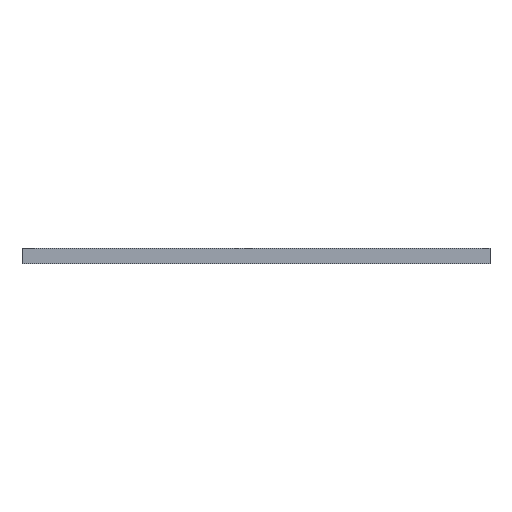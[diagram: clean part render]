
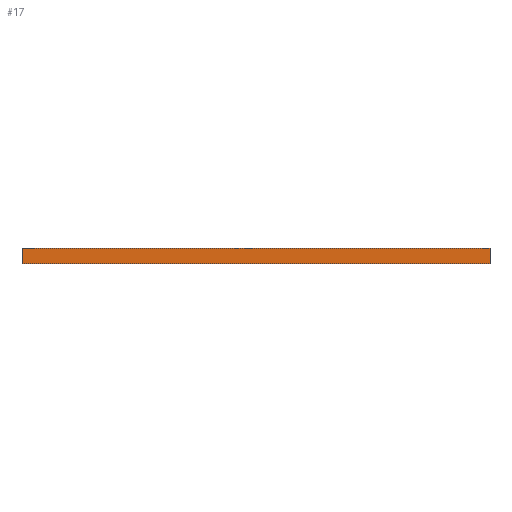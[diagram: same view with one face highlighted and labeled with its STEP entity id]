
A CAD part, front view. The second image highlights one B-rep face of the part: STEP entity #17.
In plain terms, the highlighted free-form (B-spline) face has degree [1, 1] with [2, 2] control points.
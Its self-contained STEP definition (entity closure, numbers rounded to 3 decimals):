
#17 = ADVANCED_FACE('',(#18),#31,.T.);
#18 = FACE_BOUND('',#19,.T.);
#19 = EDGE_LOOP('',(#20,#52,#77,#102));
#20 = ORIENTED_EDGE('',*,*,#21,.T.);
#21 = EDGE_CURVE('',#22,#24,#26,.T.);
#22 = VERTEX_POINT('',#23);
#23 = CARTESIAN_POINT('',(27.5,-27.,0.));
#24 = VERTEX_POINT('',#25);
#25 = CARTESIAN_POINT('',(27.5,-27.,0.9));
#26 = SURFACE_CURVE('',#27,(#30,#41),.PCURVE_S1.);
#27 = B_SPLINE_CURVE_WITH_KNOTS('',1,(#28,#29),.UNSPECIFIED.,.F.,.F.,(2,
    2),(0.,0.729),.PIECEWISE_BEZIER_KNOTS.);
#28 = CARTESIAN_POINT('',(27.5,-27.,0.));
#29 = CARTESIAN_POINT('',(27.5,-27.,0.9));
#30 = PCURVE('',#31,#36);
#31 = B_SPLINE_SURFACE_WITH_KNOTS('',1,1,(
    (#32,#33)
    ,(#34,#35
    )),.UNSPECIFIED.,.F.,.F.,.F.,(2,2),(2,2),(0.,27.5),(-0.729,0.),
  .PIECEWISE_BEZIER_KNOTS.);
#32 = CARTESIAN_POINT('',(27.5,-27.,0.9));
#33 = CARTESIAN_POINT('',(27.5,-27.,0.));
#34 = CARTESIAN_POINT('',(0.,-27.,0.9));
#35 = CARTESIAN_POINT('',(0.,-27.,0.));
#36 = DEFINITIONAL_REPRESENTATION('',(#37),#40);
#37 = B_SPLINE_CURVE_WITH_KNOTS('',1,(#38,#39),.UNSPECIFIED.,.F.,.F.,(2,
    2),(0.,0.729),.PIECEWISE_BEZIER_KNOTS.);
#38 = CARTESIAN_POINT('',(0.,0.));
#39 = CARTESIAN_POINT('',(0.,-0.729));
#40 = ( GEOMETRIC_REPRESENTATION_CONTEXT(2) 
PARAMETRIC_REPRESENTATION_CONTEXT() REPRESENTATION_CONTEXT('2D SPACE',''
  ) );
#41 = PCURVE('',#42,#47);
#42 = B_SPLINE_SURFACE_WITH_KNOTS('',1,1,(
    (#43,#44)
    ,(#45,#46
    )),.UNSPECIFIED.,.F.,.F.,.F.,(2,2),(2,2),(0.,27.5),(-0.729,0.),
  .PIECEWISE_BEZIER_KNOTS.);
#43 = CARTESIAN_POINT('',(27.5,0.5,0.9));
#44 = CARTESIAN_POINT('',(27.5,0.5,0.));
#45 = CARTESIAN_POINT('',(27.5,-27.,0.9));
#46 = CARTESIAN_POINT('',(27.5,-27.,0.));
#47 = DEFINITIONAL_REPRESENTATION('',(#48),#51);
#48 = B_SPLINE_CURVE_WITH_KNOTS('',1,(#49,#50),.UNSPECIFIED.,.F.,.F.,(2,
    2),(0.,0.729),.PIECEWISE_BEZIER_KNOTS.);
#49 = CARTESIAN_POINT('',(27.5,0.));
#50 = CARTESIAN_POINT('',(27.5,-0.729));
#51 = ( GEOMETRIC_REPRESENTATION_CONTEXT(2) 
PARAMETRIC_REPRESENTATION_CONTEXT() REPRESENTATION_CONTEXT('2D SPACE',''
  ) );
#52 = ORIENTED_EDGE('',*,*,#53,.T.);
#53 = EDGE_CURVE('',#24,#54,#56,.T.);
#54 = VERTEX_POINT('',#55);
#55 = CARTESIAN_POINT('',(0.,-27.,0.9));
#56 = SURFACE_CURVE('',#57,(#60,#66),.PCURVE_S1.);
#57 = B_SPLINE_CURVE_WITH_KNOTS('',1,(#58,#59),.UNSPECIFIED.,.F.,.F.,(2,
    2),(0.,27.5),.PIECEWISE_BEZIER_KNOTS.);
#58 = CARTESIAN_POINT('',(27.5,-27.,0.9));
#59 = CARTESIAN_POINT('',(0.,-27.,0.9));
#60 = PCURVE('',#31,#61);
#61 = DEFINITIONAL_REPRESENTATION('',(#62),#65);
#62 = B_SPLINE_CURVE_WITH_KNOTS('',1,(#63,#64),.UNSPECIFIED.,.F.,.F.,(2,
    2),(0.,27.5),.PIECEWISE_BEZIER_KNOTS.);
#63 = CARTESIAN_POINT('',(0.,-0.729));
#64 = CARTESIAN_POINT('',(27.5,-0.729));
#65 = ( GEOMETRIC_REPRESENTATION_CONTEXT(2) 
PARAMETRIC_REPRESENTATION_CONTEXT() REPRESENTATION_CONTEXT('2D SPACE',''
  ) );
#66 = PCURVE('',#67,#72);
#67 = B_SPLINE_SURFACE_WITH_KNOTS('',1,1,(
    (#68,#69)
    ,(#70,#71
    )),.UNSPECIFIED.,.F.,.F.,.F.,(2,2),(2,2),(0.,27.5),(-27.,0.5),
  .PIECEWISE_BEZIER_KNOTS.);
#68 = CARTESIAN_POINT('',(0.,-27.,0.9));
#69 = CARTESIAN_POINT('',(0.,0.5,0.9));
#70 = CARTESIAN_POINT('',(27.5,-27.,0.9));
#71 = CARTESIAN_POINT('',(27.5,0.5,0.9));
#72 = DEFINITIONAL_REPRESENTATION('',(#73),#76);
#73 = B_SPLINE_CURVE_WITH_KNOTS('',1,(#74,#75),.UNSPECIFIED.,.F.,.F.,(2,
    2),(0.,27.5),.PIECEWISE_BEZIER_KNOTS.);
#74 = CARTESIAN_POINT('',(27.5,-27.));
#75 = CARTESIAN_POINT('',(0.,-27.));
#76 = ( GEOMETRIC_REPRESENTATION_CONTEXT(2) 
PARAMETRIC_REPRESENTATION_CONTEXT() REPRESENTATION_CONTEXT('2D SPACE',''
  ) );
#77 = ORIENTED_EDGE('',*,*,#78,.F.);
#78 = EDGE_CURVE('',#79,#54,#81,.T.);
#79 = VERTEX_POINT('',#80);
#80 = CARTESIAN_POINT('',(0.,-27.,0.));
#81 = SURFACE_CURVE('',#82,(#85,#91),.PCURVE_S1.);
#82 = B_SPLINE_CURVE_WITH_KNOTS('',1,(#83,#84),.UNSPECIFIED.,.F.,.F.,(2,
    2),(0.,0.729),.PIECEWISE_BEZIER_KNOTS.);
#83 = CARTESIAN_POINT('',(0.,-27.,0.));
#84 = CARTESIAN_POINT('',(0.,-27.,0.9));
#85 = PCURVE('',#31,#86);
#86 = DEFINITIONAL_REPRESENTATION('',(#87),#90);
#87 = B_SPLINE_CURVE_WITH_KNOTS('',1,(#88,#89),.UNSPECIFIED.,.F.,.F.,(2,
    2),(0.,0.729),.PIECEWISE_BEZIER_KNOTS.);
#88 = CARTESIAN_POINT('',(27.5,0.));
#89 = CARTESIAN_POINT('',(27.5,-0.729));
#90 = ( GEOMETRIC_REPRESENTATION_CONTEXT(2) 
PARAMETRIC_REPRESENTATION_CONTEXT() REPRESENTATION_CONTEXT('2D SPACE',''
  ) );
#91 = PCURVE('',#92,#97);
#92 = B_SPLINE_SURFACE_WITH_KNOTS('',1,1,(
    (#93,#94)
    ,(#95,#96
    )),.UNSPECIFIED.,.F.,.F.,.F.,(2,2),(2,2),(0.,27.5),(-0.729,0.),
  .PIECEWISE_BEZIER_KNOTS.);
#93 = CARTESIAN_POINT('',(0.,-27.,0.9));
#94 = CARTESIAN_POINT('',(0.,-27.,0.));
#95 = CARTESIAN_POINT('',(0.,0.5,0.9));
#96 = CARTESIAN_POINT('',(0.,0.5,0.));
#97 = DEFINITIONAL_REPRESENTATION('',(#98),#101);
#98 = B_SPLINE_CURVE_WITH_KNOTS('',1,(#99,#100),.UNSPECIFIED.,.F.,.F.,(2
    ,2),(0.,0.729),.PIECEWISE_BEZIER_KNOTS.);
#99 = CARTESIAN_POINT('',(0.,0.));
#100 = CARTESIAN_POINT('',(0.,-0.729));
#101 = ( GEOMETRIC_REPRESENTATION_CONTEXT(2) 
PARAMETRIC_REPRESENTATION_CONTEXT() REPRESENTATION_CONTEXT('2D SPACE',''
  ) );
#102 = ORIENTED_EDGE('',*,*,#103,.F.);
#103 = EDGE_CURVE('',#22,#79,#104,.T.);
#104 = SURFACE_CURVE('',#105,(#108,#114),.PCURVE_S1.);
#105 = B_SPLINE_CURVE_WITH_KNOTS('',1,(#106,#107),.UNSPECIFIED.,.F.,.F.,
  (2,2),(0.,27.5),.PIECEWISE_BEZIER_KNOTS.);
#106 = CARTESIAN_POINT('',(27.5,-27.,0.));
#107 = CARTESIAN_POINT('',(0.,-27.,0.));
#108 = PCURVE('',#31,#109);
#109 = DEFINITIONAL_REPRESENTATION('',(#110),#113);
#110 = B_SPLINE_CURVE_WITH_KNOTS('',1,(#111,#112),.UNSPECIFIED.,.F.,.F.,
  (2,2),(0.,27.5),.PIECEWISE_BEZIER_KNOTS.);
#111 = CARTESIAN_POINT('',(0.,0.));
#112 = CARTESIAN_POINT('',(27.5,0.));
#113 = ( GEOMETRIC_REPRESENTATION_CONTEXT(2) 
PARAMETRIC_REPRESENTATION_CONTEXT() REPRESENTATION_CONTEXT('2D SPACE',''
  ) );
#114 = PCURVE('',#115,#120);
#115 = B_SPLINE_SURFACE_WITH_KNOTS('',1,1,(
    (#116,#117)
    ,(#118,#119
    )),.UNSPECIFIED.,.F.,.F.,.F.,(2,2),(2,2),(0.,27.5),(-27.,0.5),
  .PIECEWISE_BEZIER_KNOTS.);
#116 = CARTESIAN_POINT('',(0.,-27.,0.));
#117 = CARTESIAN_POINT('',(0.,0.5,0.));
#118 = CARTESIAN_POINT('',(27.5,-27.,0.));
#119 = CARTESIAN_POINT('',(27.5,0.5,0.));
#120 = DEFINITIONAL_REPRESENTATION('',(#121),#124);
#121 = B_SPLINE_CURVE_WITH_KNOTS('',1,(#122,#123),.UNSPECIFIED.,.F.,.F.,
  (2,2),(0.,27.5),.PIECEWISE_BEZIER_KNOTS.);
#122 = CARTESIAN_POINT('',(27.5,-27.));
#123 = CARTESIAN_POINT('',(0.,-27.));
#124 = ( GEOMETRIC_REPRESENTATION_CONTEXT(2) 
PARAMETRIC_REPRESENTATION_CONTEXT() REPRESENTATION_CONTEXT('2D SPACE',''
  ) );
